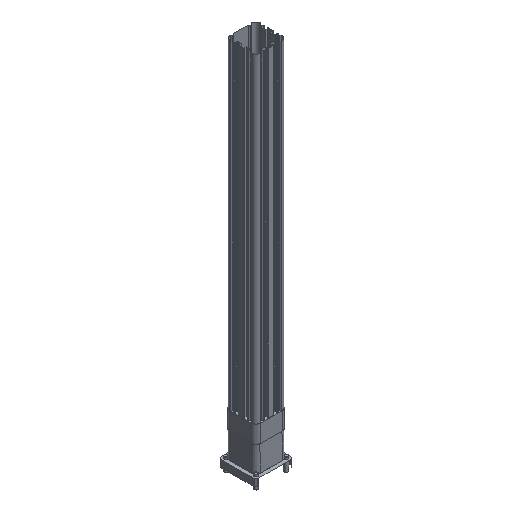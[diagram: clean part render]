
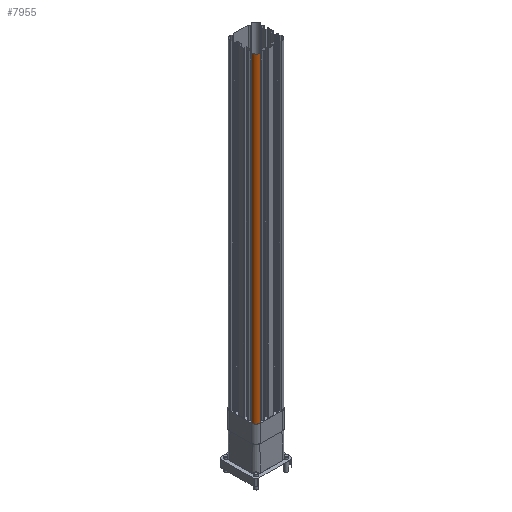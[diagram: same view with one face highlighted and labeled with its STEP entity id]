
A CAD part, isometric view. The second image highlights one B-rep face of the part: STEP entity #7955.
In plain terms, the highlighted cylindrical face has radius 6 mm (diameter 12 mm), a partial arc.
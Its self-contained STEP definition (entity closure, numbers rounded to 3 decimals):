
#173 = VERTEX_POINT ( 'NONE', #2925 ) ;
#196 = CARTESIAN_POINT ( 'NONE',  ( -16.253, -35.771, -159.058 ) ) ;
#475 = CARTESIAN_POINT ( 'NONE',  ( -22.253, -35.771, -159.058 ) ) ;
#788 = ORIENTED_EDGE ( 'NONE', *, *, #1534, .T. ) ;
#890 = CARTESIAN_POINT ( 'NONE',  ( -22.253, -35.771, -159.058 ) ) ;
#1246 = LINE ( 'NONE', #475, #6742 ) ;
#1534 = EDGE_CURVE ( 'NONE', #2065, #5988, #5178, .T. ) ;
#2065 = VERTEX_POINT ( 'NONE', #890 ) ;
#2213 = ORIENTED_EDGE ( 'NONE', *, *, #4866, .T. ) ;
#2314 = CARTESIAN_POINT ( 'NONE',  ( -16.253, -35.771, 312.942 ) ) ;
#2371 = DIRECTION ( 'NONE',  ( -1., 0., 0. ) ) ;
#2380 = AXIS2_PLACEMENT_3D ( 'NONE', #196, #4475, #2371 ) ;
#2482 = VERTEX_POINT ( 'NONE', #7195 ) ;
#2483 = CYLINDRICAL_SURFACE ( 'NONE', #6255, 6. ) ;
#2516 = DIRECTION ( 'NONE',  ( -1., 0., 0. ) ) ;
#2553 = EDGE_CURVE ( 'NONE', #173, #2482, #3884, .T. ) ;
#2925 = CARTESIAN_POINT ( 'NONE',  ( -15.311, -41.697, 312.942 ) ) ;
#2945 = LINE ( 'NONE', #6051, #8414 ) ;
#3040 = DIRECTION ( 'NONE',  ( -1., 0., 0. ) ) ;
#3199 = DIRECTION ( 'NONE',  ( 0., 0., -1. ) ) ;
#3884 = CIRCLE ( 'NONE', #7362, 6. ) ;
#4475 = DIRECTION ( 'NONE',  ( 0., 0., 1. ) ) ;
#4866 = EDGE_CURVE ( 'NONE', #2482, #2065, #1246, .T. ) ;
#5145 = CARTESIAN_POINT ( 'NONE',  ( -15.311, -41.697, -159.058 ) ) ;
#5178 = CIRCLE ( 'NONE', #2380, 6. ) ;
#5181 = EDGE_CURVE ( 'NONE', #5988, #173, #2945, .T. ) ;
#5311 = DIRECTION ( 'NONE',  ( 0., 0., 1. ) ) ;
#5988 = VERTEX_POINT ( 'NONE', #5145 ) ;
#6051 = CARTESIAN_POINT ( 'NONE',  ( -15.311, -41.697, -159.058 ) ) ;
#6255 = AXIS2_PLACEMENT_3D ( 'NONE', #6790, #3199, #2516 ) ;
#6742 = VECTOR ( 'NONE', #8315, 1000. ) ;
#6790 = CARTESIAN_POINT ( 'NONE',  ( -16.253, -35.771, -159.058 ) ) ;
#6814 = ORIENTED_EDGE ( 'NONE', *, *, #2553, .T. ) ;
#6839 = EDGE_LOOP ( 'NONE', ( #6814, #2213, #788, #8172 ) ) ;
#7195 = CARTESIAN_POINT ( 'NONE',  ( -22.253, -35.771, 312.942 ) ) ;
#7321 = DIRECTION ( 'NONE',  ( 0., 0., -1. ) ) ;
#7362 = AXIS2_PLACEMENT_3D ( 'NONE', #2314, #7321, #3040 ) ;
#7955 = ADVANCED_FACE ( 'NONE', ( #8841 ), #2483, .T. ) ;
#8172 = ORIENTED_EDGE ( 'NONE', *, *, #5181, .T. ) ;
#8315 = DIRECTION ( 'NONE',  ( 0., 0., -1. ) ) ;
#8414 = VECTOR ( 'NONE', #5311, 1000. ) ;
#8841 = FACE_OUTER_BOUND ( 'NONE', #6839, .T. ) ;
